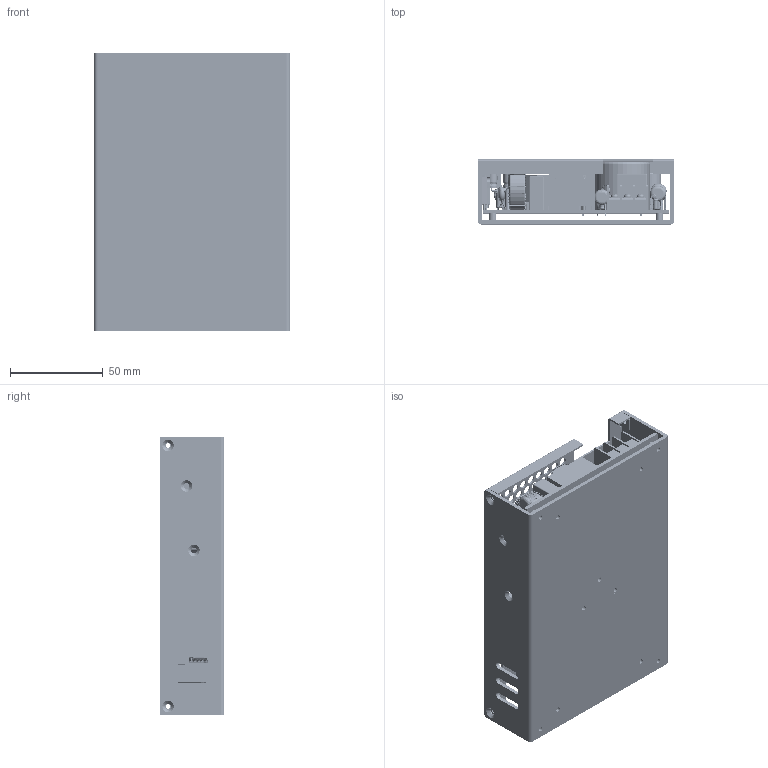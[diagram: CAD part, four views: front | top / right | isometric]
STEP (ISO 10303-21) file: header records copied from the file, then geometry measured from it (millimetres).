
FILE_DESCRIPTION (( 'STEP AP203' ), '1' );
FILE_NAME ('TXH240-E.STEP', '2012-10-17T12:04:38', ( '微软用户' ), ( '微软中国' ), 'SwSTEP 2.0', 'SolidWorks 2011', '' );
FILE_SCHEMA (( 'CONFIG_CONTROL_DESIGN' ));
Products named in the file (1): TXH240-E
Bounding box: 106 x 35 x 150 mm (x, y, z)
Volume: 213019.4 mm3; surface area: 174744.4 mm2
Topology: 155 solids, 156 shells, 6077 faces, 15923 edges, 10223 vertices
Faces by surface type: plane 2782, cylinder 2268, torus 811, bspline 110, cone 56, sphere 50
Entity records: 206215 total; most frequent: CARTESIAN_POINT 50290, DIRECTION 33408, ORIENTED_EDGE 31814, EDGE_CURVE 15907, AXIS2_PLACEMENT_3D 12099, VERTEX_POINT 10221, VECTOR 9210, LINE 9210
